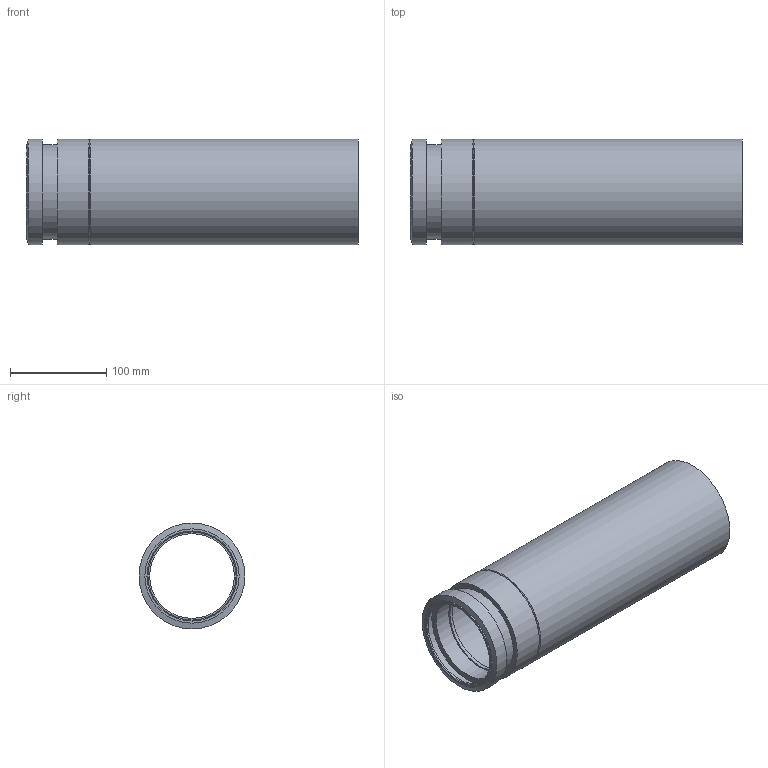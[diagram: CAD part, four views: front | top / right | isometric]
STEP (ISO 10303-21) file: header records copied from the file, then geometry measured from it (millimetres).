
FILE_DESCRIPTION(/* description */ (''),/* implementation_level */ '2;1');
FILE_NAME(/* name */ 'Z:\Geberit\Export\NewStep\367887.stp',/* time_stamp */ '2014-04-02T07:59:01+02:00',/* author */ ('nelson'),/* organization */ (''),/* preprocessor_version */ 'ST-DEVELOPER v15.2',/* originating_system */ 'Autodesk Inventor 2014',/* authorisation */ '');
FILE_SCHEMA (('AUTOMOTIVE_DESIGN { 1 0 10303 214 3 1 1 }'));
Length unit declared in the file: millimetre
Products named in the file (1): 367887
Bounding box: 345 x 110 x 110 mm (x, y, z)
Volume: 512329.6 mm3; surface area: 241298.8 mm2
Topology: 1 solids, 1 shells, 22 faces, 37 edges, 22 vertices
Faces by surface type: cylinder 10, plane 7, cone 5
Full cylindrical faces by diameter (mm): 88 x1, 91.45 x1, 92.2 x1, 98 x1, 98.2 x1, 101 x1, 104.3 x1, 110 x3
Entity records: 469 total; most frequent: DIRECTION 90, CARTESIAN_POINT 67, AXIS2_PLACEMENT_3D 45, EDGE_LOOP 44, ORIENTED_EDGE 44, FACE_BOUND 25, CIRCLE 22, VERTEX_POINT 22
